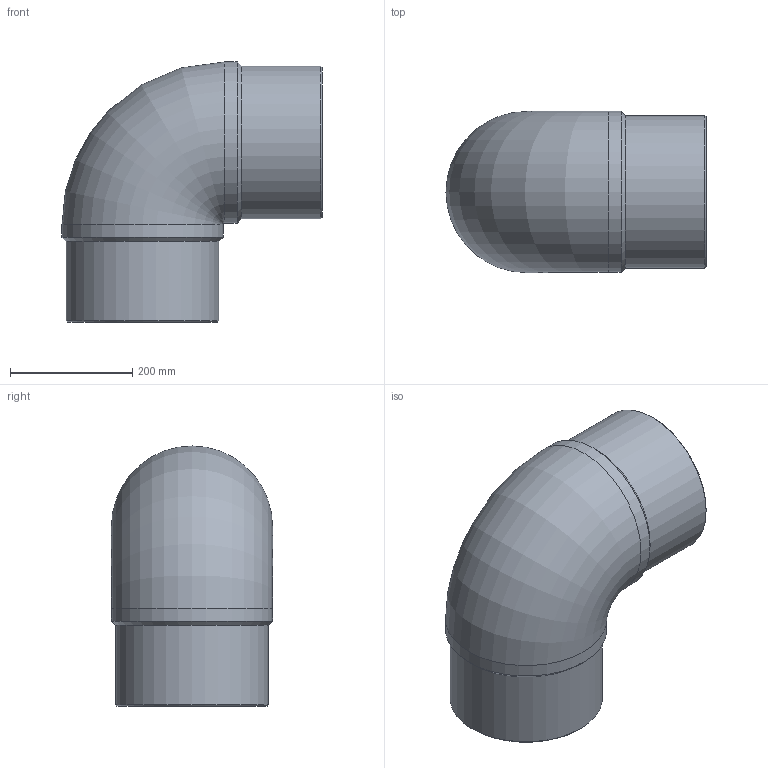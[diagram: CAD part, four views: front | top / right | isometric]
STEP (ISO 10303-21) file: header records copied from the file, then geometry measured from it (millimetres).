
FILE_DESCRIPTION(/* description */ ('Unknown'),/* implementation_level */ '2;1');
FILE_NAME(/* name */ 'G9P250C',/* time_stamp */ '2021-11-15T10:23:17+01:00',/* author */ ('Unknown'),/* organization */ ('Unknown'),/* preprocessor_version */ 'ST-DEVELOPER v16.7',/* originating_system */ 'Solid Edge',/* authorisation */ 'Unknown');
FILE_SCHEMA (('AUTOMOTIVE_DESIGN {1 0 10303 214 3 1 1}'));
Length unit declared in the file: millimetre
Products named in the file (1): G9P250C
Bounding box: 426 x 264 x 426 mm (x, y, z)
Volume: 10208441.2 mm3; surface area: 806052.3 mm2
Topology: 1 solids, 1 shells, 14 faces, 34 edges, 22 vertices
Faces by surface type: cylinder 6, cone 4, plane 2, torus 2
Full cylindrical faces by diameter (mm): 204.6 x2, 250 x2, 264 x2
Entity records: 378 total; most frequent: CARTESIAN_POINT 78, DIRECTION 60, ORIENTED_EDGE 38, AXIS2_PLACEMENT_3D 30, EDGE_LOOP 27, FACE_BOUND 27, EDGE_CURVE 19, VERTEX_POINT 18
